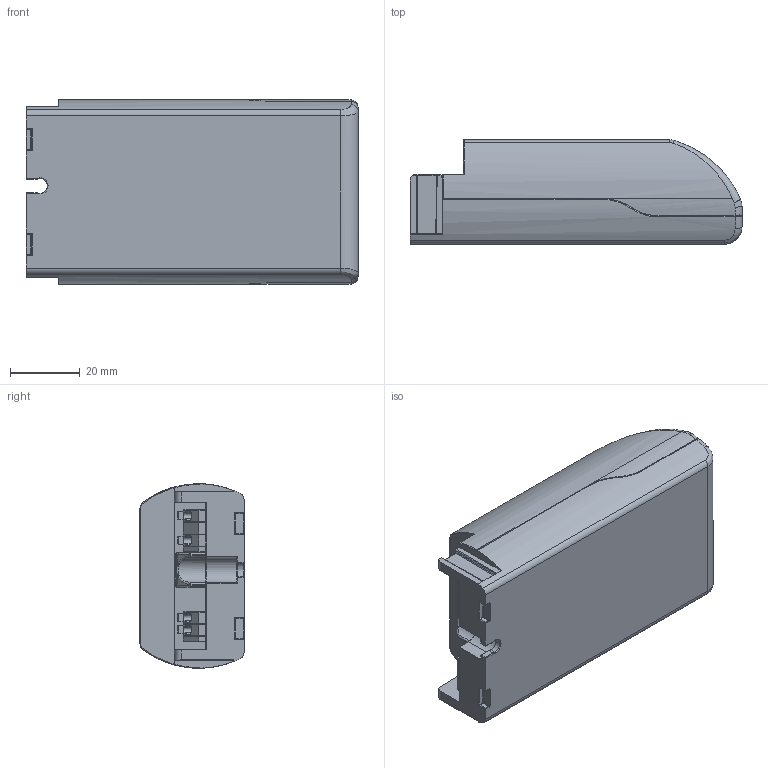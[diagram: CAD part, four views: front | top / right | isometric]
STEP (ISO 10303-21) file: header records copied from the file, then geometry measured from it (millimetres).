
FILE_DESCRIPTION (( 'STEP AP214' ), '1' );
FILE_NAME ('OTe-18-25_CADexport.STEP', '2013-09-06T07:15:51', ( '' ), ( '' ), 'SwSTEP 2.0', 'SolidWorks 2012', '' );
FILE_SCHEMA (( 'AUTOMOTIVE_DESIGN' ));
Length unit declared in the file: millimetre
Products named in the file (1): OTe-18-25_CADexport
Bounding box: 95 x 29.8 x 52.8 mm (x, y, z)
Volume: 123711.4 mm3; surface area: 18967.2 mm2
Topology: 3 solids, 8 shells, 546 faces, 1369 edges, 835 vertices
Faces by surface type: plane 237, cylinder 210, torus 41, bspline 34, sphere 16, cone 8
Entity records: 23152 total; most frequent: CARTESIAN_POINT 4834, ORIENTED_EDGE 2710, DIRECTION 2375, EDGE_CURVE 1355, VERTEX_POINT 835, AXIS2_PLACEMENT_3D 798, LINE 779, VECTOR 779
